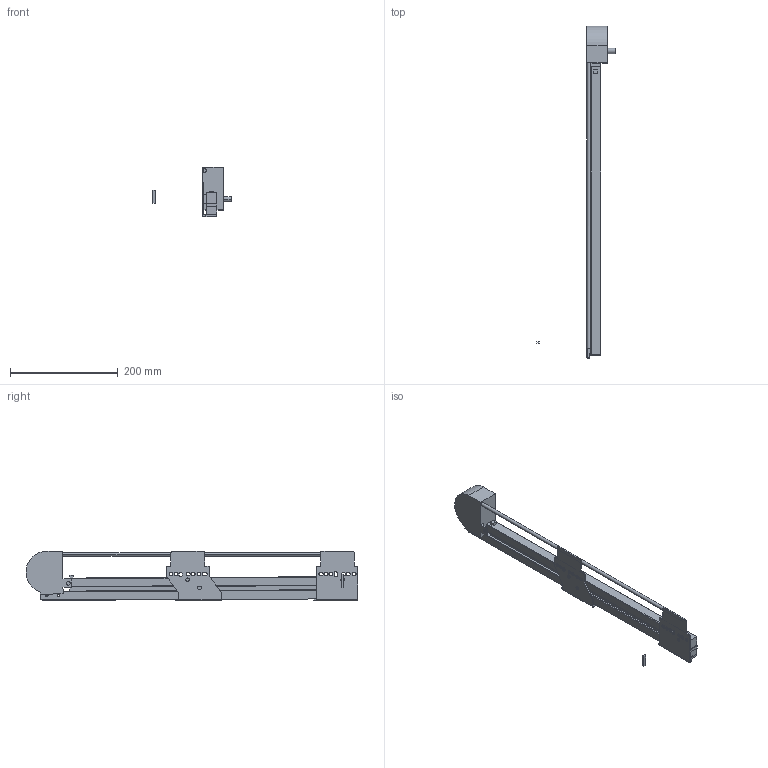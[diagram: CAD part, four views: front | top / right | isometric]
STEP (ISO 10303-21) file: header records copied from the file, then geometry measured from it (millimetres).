
FILE_DESCRIPTION (( 'STEP AP214' ), '1' );
FILE_NAME ('_IMOS_NOVA-Pro_Sensotronic_KS_P907_LI_NL-550_EB29mm.step', '2010-07-23T08:20:09', ( 'grass' ), ( '' ), 'SwSTEP 2.0', 'SolidWorks 2009', '' );
FILE_SCHEMA (( 'AUTOMOTIVE_DESIGN' ));
Length unit declared in the file: millimetre
Products named in the file (1): _IMOS_NOVA-Pro_Sensotronic_KS_P907_LI_NL-550_EB29mm
Bounding box: 145.8 x 616.61 x 92.15 mm (x, y, z)
Volume: 602332.3 mm3; surface area: 146436.8 mm2
Topology: 3 solids, 3 shells, 160 faces, 452 edges, 300 vertices
Faces by surface type: plane 96, cylinder 64
Entity records: 5323 total; most frequent: CARTESIAN_POINT 937, ORIENTED_EDGE 904, DIRECTION 893, EDGE_CURVE 452, LINE 317, VECTOR 317, VERTEX_POINT 300, AXIS2_PLACEMENT_3D 288
